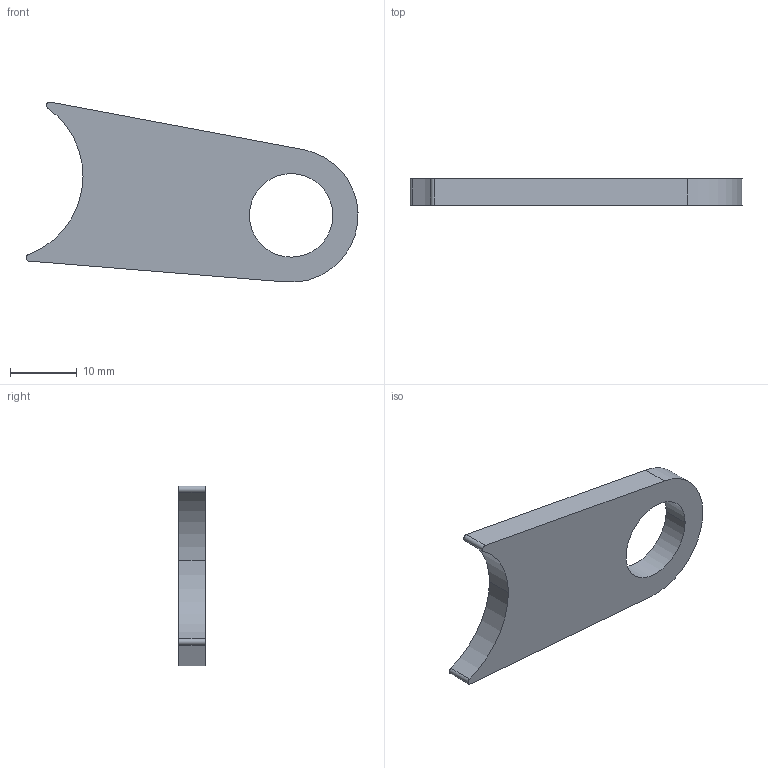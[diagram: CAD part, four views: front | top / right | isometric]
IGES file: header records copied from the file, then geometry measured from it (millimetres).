
Start section: START RECORD GO HERE.
Global section: file name: 20M_EN_R (Chape_Moteur).igs; native system: IBM CATIA IGES - CATIA Version 5 Release 19 ; preprocessor: CATIA Version 5 Release 19 ; author: Calixthe; organization: MACHINEDECALOU; date: 20191217.141053; units: millimetre
Bounding box: 49.67 x 4 x 26.92 mm (x, y, z)
Surface area: 2248.8 mm2 (no closed solid volume)
Topology: 0 solids, 0 shells, 11 faces, 54 edges, 56 vertices
Faces by surface type: revolution 7, plane 4
